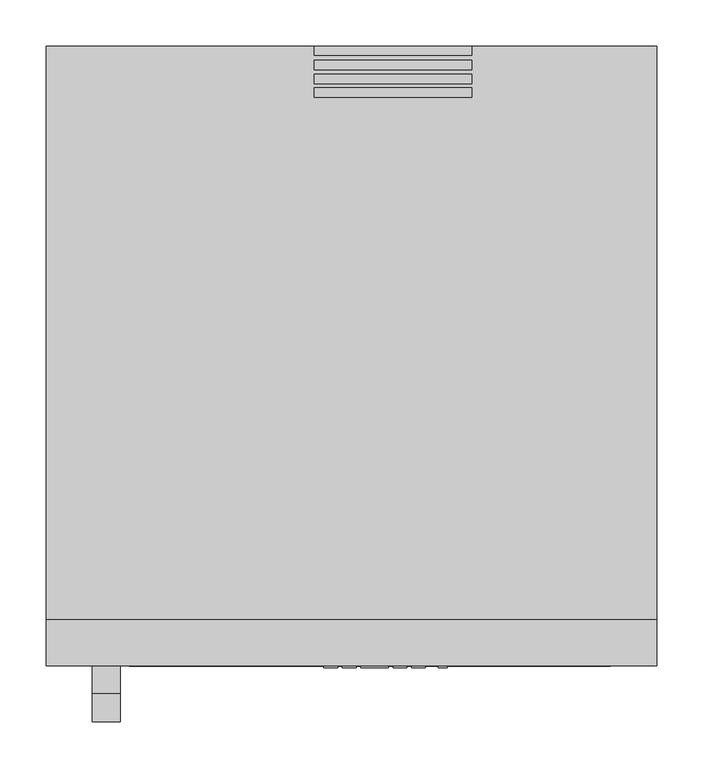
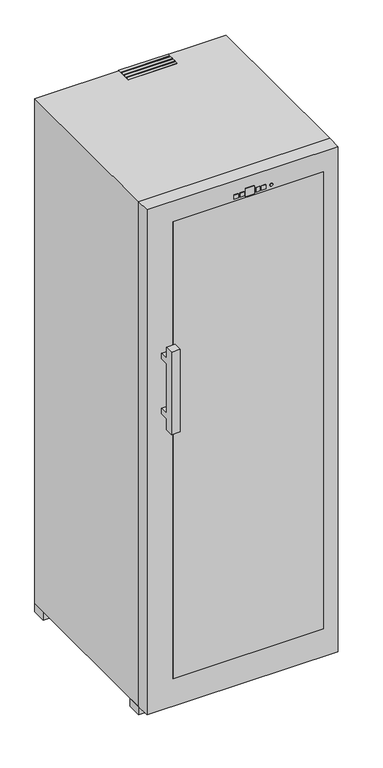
"""IFC4 building model written with IfcOpenShell, lengths in millimetres: proxy geometry, Wkb 4612_049 : WKb 4612."""

from ifc_helpers import new_model, si_unit, point, frame, frame_2d, origin, place, context, project, spatial, polyline, circle_curve, trimmed, segment, composite_curve, outline, extrude, faceted_brep, source, transform, mapped, element, save


def specialty_equipment_0e9e9f57(model_context):
    return source(origin(), model_context, "Body", "SolidModel", [
        extrude(outline(polyline([(-390.0, -79.8345306), (-390.0, -100.1374483), (-390.0, -649.8345306), (-910.0, -649.8345306), (-910.0, -79.8345306), (-390.0, -79.8345306)]), holes=[polyline([(-819.113008, -100.1374483), (-879.1049624, -100.1374483), (-879.1049624, -628.5208352), (-844.113008, -628.5208352), (-819.113008, -628.5208352), (-819.113008, -100.1374483)]), polyline([(-803.4244332, -628.5208352), (-739.113008, -628.5208352), (-739.113008, -100.1374483), (-803.4244332, -100.1374483), (-803.4244332, -628.5208352)]), polyline([(-723.4244332, -628.5208352), (-659.113008, -628.5208352), (-659.113008, -100.1374483), (-723.4244332, -100.1374483), (-723.4244332, -628.5208352)]), polyline([(-643.4244332, -628.5208352), (-574.113008, -628.5208352), (-574.113008, -100.1374483), (-643.4244332, -100.1374483), (-643.4244332, -628.5208352)]), polyline([(-418.4244332, -100.1374483), (-475.9244332, -100.1374483), (-475.9244332, -628.5208352), (-453.635188, -628.5208352), (-418.4244332, -628.5208352), (-418.4244332, -100.1374483)]), polyline([(-558.4244332, -628.5208352), (-491.613008, -628.5208352), (-491.613008, -100.1374483), (-558.4244332, -100.1374483), (-558.4244332, -628.5208352)])]), frame((0.0, 0.0, 870.1353038), z_axis=(0.0, 0.0, 1.0), x_axis=(1.0, 0.0, 0.0)), (0.0, 0.0, 1.0), 14.6283487),
        extrude(outline(polyline([(-390.0, -79.8345306), (-390.0, -100.1374483), (-390.0, -649.8345306), (-910.0, -649.8345306), (-910.0, -79.8345306), (-390.0, -79.8345306)]), holes=[polyline([(-819.113008, -100.1374483), (-879.1049624, -100.1374483), (-879.1049624, -628.5208352), (-844.113008, -628.5208352), (-819.113008, -628.5208352), (-819.113008, -100.1374483)]), polyline([(-803.4244332, -628.5208352), (-739.113008, -628.5208352), (-739.113008, -100.1374483), (-803.4244332, -100.1374483), (-803.4244332, -628.5208352)]), polyline([(-723.4244332, -628.5208352), (-659.113008, -628.5208352), (-659.113008, -100.1374483), (-723.4244332, -100.1374483), (-723.4244332, -628.5208352)]), polyline([(-643.4244332, -628.5208352), (-574.113008, -628.5208352), (-574.113008, -100.1374483), (-643.4244332, -100.1374483), (-643.4244332, -628.5208352)]), polyline([(-418.4244332, -100.1374483), (-475.9244332, -100.1374483), (-475.9244332, -628.5208352), (-453.635188, -628.5208352), (-418.4244332, -628.5208352), (-418.4244332, -100.1374483)]), polyline([(-558.4244332, -628.5208352), (-491.613008, -628.5208352), (-491.613008, -100.1374483), (-558.4244332, -100.1374483), (-558.4244332, -628.5208352)])]), frame((0.0, 0.0, 710.6993462), z_axis=(0.0, 0.0, 1.0), x_axis=(1.0, 0.0, 0.0)), (0.0, 0.0, 1.0), 21.1139055),
        extrude(outline(polyline([(-390.0, -79.8345306), (-390.0, -100.1374483), (-390.0, -649.8345306), (-910.0, -649.8345306), (-910.0, -79.8345306), (-390.0, -79.8345306)]), holes=[polyline([(-819.113008, -100.1374483), (-879.1049624, -100.1374483), (-879.1049624, -628.5208352), (-844.113008, -628.5208352), (-819.113008, -628.5208352), (-819.113008, -100.1374483)]), polyline([(-803.4244332, -628.5208352), (-739.113008, -628.5208352), (-739.113008, -100.1374483), (-803.4244332, -100.1374483), (-803.4244332, -628.5208352)]), polyline([(-723.4244332, -628.5208352), (-659.113008, -628.5208352), (-659.113008, -100.1374483), (-723.4244332, -100.1374483), (-723.4244332, -628.5208352)]), polyline([(-643.4244332, -628.5208352), (-574.113008, -628.5208352), (-574.113008, -100.1374483), (-643.4244332, -100.1374483), (-643.4244332, -628.5208352)]), polyline([(-418.4244332, -100.1374483), (-475.9244332, -100.1374483), (-475.9244332, -628.5208352), (-453.635188, -628.5208352), (-418.4244332, -628.5208352), (-418.4244332, -100.1374483)]), polyline([(-558.4244332, -628.5208352), (-491.613008, -628.5208352), (-491.613008, -100.1374483), (-558.4244332, -100.1374483), (-558.4244332, -628.5208352)])]), frame((0.0, 0.0, 540.1353038), z_axis=(0.0, 0.0, 1.0), x_axis=(1.0, 0.0, 0.0)), (0.0, 0.0, 1.0), 34.7537322),
        extrude(outline(polyline([(-390.0, -79.8345306), (-390.0, -100.1374483), (-390.0, -649.8345306), (-910.0, -649.8345306), (-910.0, -79.8345306), (-390.0, -79.8345306)]), holes=[polyline([(-819.113008, -100.1374483), (-879.1049624, -100.1374483), (-879.1049624, -628.5208352), (-844.113008, -628.5208352), (-819.113008, -628.5208352), (-819.113008, -100.1374483)]), polyline([(-803.4244332, -628.5208352), (-739.113008, -628.5208352), (-739.113008, -100.1374483), (-803.4244332, -100.1374483), (-803.4244332, -628.5208352)]), polyline([(-723.4244332, -628.5208352), (-659.113008, -628.5208352), (-659.113008, -100.1374483), (-723.4244332, -100.1374483), (-723.4244332, -628.5208352)]), polyline([(-643.4244332, -628.5208352), (-574.113008, -628.5208352), (-574.113008, -100.1374483), (-643.4244332, -100.1374483), (-643.4244332, -628.5208352)]), polyline([(-418.4244332, -100.1374483), (-475.9244332, -100.1374483), (-475.9244332, -628.5208352), (-453.635188, -628.5208352), (-418.4244332, -628.5208352), (-418.4244332, -100.1374483)]), polyline([(-558.4244332, -628.5208352), (-491.613008, -628.5208352), (-491.613008, -100.1374483), (-558.4244332, -100.1374483), (-558.4244332, -628.5208352)])]), frame((0.0, 0.0, 255.1353038), z_axis=(0.0, 0.0, 1.0), x_axis=(1.0, 0.0, 0.0)), (0.0, 0.0, 1.0), 34.7537322),
        extrude(outline(polyline([(-390.0, -79.8345306), (-390.0, -100.1374483), (-390.0, -649.8345306), (-910.0, -649.8345306), (-910.0, -79.8345306), (-390.0, -79.8345306)]), holes=[polyline([(-819.113008, -100.1374483), (-879.1049624, -100.1374483), (-879.1049624, -628.5208352), (-844.113008, -628.5208352), (-819.113008, -628.5208352), (-819.113008, -100.1374483)]), polyline([(-803.4244332, -628.5208352), (-739.113008, -628.5208352), (-739.113008, -100.1374483), (-803.4244332, -100.1374483), (-803.4244332, -628.5208352)]), polyline([(-723.4244332, -628.5208352), (-659.113008, -628.5208352), (-659.113008, -100.1374483), (-723.4244332, -100.1374483), (-723.4244332, -628.5208352)]), polyline([(-643.4244332, -628.5208352), (-574.113008, -628.5208352), (-574.113008, -100.1374483), (-643.4244332, -100.1374483), (-643.4244332, -628.5208352)]), polyline([(-418.4244332, -100.1374483), (-475.9244332, -100.1374483), (-475.9244332, -628.5208352), (-453.635188, -628.5208352), (-418.4244332, -628.5208352), (-418.4244332, -100.1374483)]), polyline([(-558.4244332, -628.5208352), (-491.613008, -628.5208352), (-491.613008, -100.1374483), (-558.4244332, -100.1374483), (-558.4244332, -628.5208352)])]), frame((0.0, 0.0, -14.8646962), z_axis=(0.0, 0.0, 1.0), x_axis=(1.0, 0.0, 0.0)), (0.0, 0.0, 1.0), 26.4267548),
        extrude(outline(polyline([(-390.0, -79.8345306), (-390.0, -100.1374483), (-390.0, -649.8345306), (-910.0, -649.8345306), (-910.0, -79.8345306), (-390.0, -79.8345306)]), holes=[polyline([(-819.113008, -100.1374483), (-879.1049624, -100.1374483), (-879.1049624, -628.5208352), (-844.113008, -628.5208352), (-819.113008, -628.5208352), (-819.113008, -100.1374483)]), polyline([(-803.4244332, -628.5208352), (-739.113008, -628.5208352), (-739.113008, -100.1374483), (-803.4244332, -100.1374483), (-803.4244332, -628.5208352)]), polyline([(-723.4244332, -628.5208352), (-659.113008, -628.5208352), (-659.113008, -100.1374483), (-723.4244332, -100.1374483), (-723.4244332, -628.5208352)]), polyline([(-643.4244332, -628.5208352), (-574.113008, -628.5208352), (-574.113008, -100.1374483), (-643.4244332, -100.1374483), (-643.4244332, -628.5208352)]), polyline([(-418.4244332, -100.1374483), (-475.9244332, -100.1374483), (-475.9244332, -628.5208352), (-453.635188, -628.5208352), (-418.4244332, -628.5208352), (-418.4244332, -100.1374483)]), polyline([(-558.4244332, -628.5208352), (-491.613008, -628.5208352), (-491.613008, -100.1374483), (-558.4244332, -100.1374483), (-558.4244332, -628.5208352)])]), frame((0.0, 0.0, -274.8646962), z_axis=(0.0, 0.0, 1.0), x_axis=(1.0, 0.0, 0.0)), (0.0, 0.0, 1.0), 28.5542219),
        extrude(outline(polyline([(-390.0, -79.8345306), (-390.0, -100.1374483), (-390.0, -649.8249483), (-910.0, -649.8249483), (-910.0, -79.8345306), (-390.0, -79.8345306)]), holes=[polyline([(-819.113008, -100.1374483), (-879.1049624, -100.1374483), (-879.1049624, -628.5208352), (-844.113008, -628.5208352), (-819.113008, -628.5208352), (-819.113008, -100.1374483)]), polyline([(-803.4244332, -628.5208352), (-739.113008, -628.5208352), (-739.113008, -100.1374483), (-803.4244332, -100.1374483), (-803.4244332, -628.5208352)]), polyline([(-723.4244332, -628.5208352), (-659.113008, -628.5208352), (-659.113008, -100.1374483), (-723.4244332, -100.1374483), (-723.4244332, -628.5208352)]), polyline([(-643.4244332, -628.5208352), (-574.113008, -628.5208352), (-574.113008, -100.1374483), (-643.4244332, -100.1374483), (-643.4244332, -628.5208352)]), polyline([(-418.4244332, -100.1374483), (-475.9244332, -100.1374483), (-475.9244332, -628.5208352), (-453.635188, -628.5208352), (-418.4244332, -628.5208352), (-418.4244332, -100.1374483)]), polyline([(-558.4244332, -628.5208352), (-491.613008, -628.5208352), (-491.613008, -100.1374483), (-558.4244332, -100.1374483), (-558.4244332, -628.5208352)])]), frame((0.0, 0.0, -524.1867483), z_axis=(0.0, 0.0, 1.0), x_axis=(1.0, 0.0, 0.0)), (0.0, 0.0, 1.0), 21.9717658),
        extrude(outline(polyline([(-540.0, -29.8345306), (-540.0, -39.8345306), (-710.0, -39.8345306), (-710.0, -29.8345306), (-540.0, -29.8345306)])), frame((0.0, 0.0, 1216.8132517), z_axis=(0.0, 0.0, 1.0), x_axis=(1.0, 0.0, 0.0)), (0.0, 0.0, 1.0), 1.0318985),
        extrude(outline(polyline([(-540.0, -45.1511593), (-540.0, -55.1511593), (-710.0, -55.1511593), (-710.0, -45.1511593), (-540.0, -45.1511593)])), frame((0.0, 0.0, 1216.8132517), z_axis=(0.0, 0.0, 1.0), x_axis=(1.0, 0.0, 0.0)), (0.0, 0.0, 1.0), 1.0318985),
        extrude(outline(polyline([(-540.0, -60.1400497), (-540.0, -70.1400497), (-710.0, -70.1400497), (-710.0, -60.1400497), (-540.0, -60.1400497)])), frame((0.0, 0.0, 1216.8132517), z_axis=(0.0, 0.0, 1.0), x_axis=(1.0, 0.0, 0.0)), (0.0, 0.0, 1.0), 1.0318985),
        extrude(outline(polyline([(-540.0, -74.8345306), (-540.0, -84.8345306), (-710.0, -84.8345306), (-710.0, -74.8345306), (-540.0, -74.8345306)])), frame((0.0, 0.0, 1216.8132517), z_axis=(0.0, 0.0, 1.0), x_axis=(1.0, 0.0, 0.0)), (0.0, 0.0, 1.0), 1.0318985),
        extrude(outline(polyline([(-630.0, -701.7817027), (-660.0, -701.7817027), (-660.0, -699.8345306), (-630.0, -699.8345306), (-630.0, -701.7817027)])), frame((0.0, 0.0, 1146.8132517), z_axis=(0.0, 0.0, 1.0), x_axis=(1.0, 0.0, 0.0)), (0.0, 0.0, 1.0), 30.0),
        extrude(outline(polyline([(-665.0, -701.7817027), (-680.0, -701.7817027), (-680.0, -699.8345306), (-665.0, -699.8345306), (-665.0, -701.7817027)])), frame((0.0, 0.0, 1152.245761), z_axis=(0.0, 0.0, 1.0), x_axis=(1.0, 0.0, 0.0)), (0.0, 0.0, 1.0), 15.0),
        extrude(outline(polyline([(-685.0, -701.7817027), (-700.0, -701.7817027), (-700.0, -699.8345306), (-685.0, -699.8345306), (-685.0, -701.7817027)])), frame((0.0, 0.0, 1152.245761), z_axis=(0.0, 0.0, 1.0), x_axis=(1.0, 0.0, 0.0)), (0.0, 0.0, 1.0), 15.0),
        extrude(outline(polyline([(-610.0, -701.7817027), (-625.0, -701.7817027), (-625.0, -699.8345306), (-610.0, -699.8345306), (-610.0, -701.7817027)])), frame((0.0, 0.0, 1152.245761), z_axis=(0.0, 0.0, 1.0), x_axis=(1.0, 0.0, 0.0)), (0.0, 0.0, 1.0), 15.0),
        extrude(outline(polyline([(-590.0, -701.7817027), (-605.0, -701.7817027), (-605.0, -699.8345306), (-590.0, -699.8345306), (-590.0, -701.7817027)])), frame((0.0, 0.0, 1152.245761), z_axis=(0.0, 0.0, 1.0), x_axis=(1.0, 0.0, 0.0)), (0.0, 0.0, 1.0), 15.0),
        extrude(outline(composite_curve([segment(trimmed(circle_curve(frame_2d((1159.745761, -571.25)), 5.0), [point((1159.745761, -576.25))], [point((1159.745761, -566.25))], False, "CARTESIAN"), True, "CONTINUOUS"), segment(trimmed(circle_curve(frame_2d((1159.745761, -571.25)), 5.0), [point((1159.745761, -566.25))], [point((1159.745761, -576.25))], False, "CARTESIAN"), True, "CONTINUOUS")], self_intersect=False)), frame((0.0, -701.7817027, 0.0), z_axis=(0.0, 1.0, 0.0), x_axis=(0.0, 0.0, 1.0)), (0.0, 0.0, 1.0), 1.947172),
        extrude(outline(polyline([(-390.0, -699.8345306), (-910.0, -699.8345306), (-910.0, -649.8345306), (-390.0, -649.8345306), (-390.0, -699.8345306)])), frame((0.0, 0.0, -524.1867483), z_axis=(0.0, 0.0, 1.0), x_axis=(1.0, 0.0, 0.0)), (0.0, 0.0, 1.0), 1666.0),
        extrude(outline(polyline([(1216.8132517, -340.0), (1216.8132517, -1000.0), (-624.1867483, -1000.0), (-624.1867483, -340.0), (1216.8132517, -340.0)]), holes=[polyline([(1141.8132517, -910.0), (1141.8132517, -390.0), (-524.1867483, -390.0), (-524.1867483, -910.0), (1141.8132517, -910.0)])]), frame((0.0, -699.8345306, 0.0), z_axis=(0.0, 1.0, 0.0), x_axis=(0.0, 0.0, 1.0)), (0.0, 0.0, 1.0), 50.0),
        faceted_brep([(-340.0, -649.8345306, 1216.8132517), (-1000.0, -649.8345306, 1216.8132517), (-1000.0, -649.8345306, -624.1867483), (-340.0, -649.8345306, -624.1867483), (-910.0, -649.8345306, 1141.8132517), (-390.0, -649.8345306, 1141.8132517), (-390.0, -649.8345306, -524.1867483), (-910.0, -649.8345306, -524.1867483), (-340.0, -29.8345306, 1216.8132517), (-340.0, -29.8345306, -624.1867483), (-1000.0, -29.8345306, -624.1867483), (-1000.0, -29.8345306, 1216.8132517), (-390.0, -79.8345306, 1141.8132517), (-910.0, -79.8345306, 1141.8132517), (-910.0, -79.8345306, -524.1867483), (-390.0, -79.8345306, -524.1867483)], [[[0, 1, 2, 3], [4, 5, 6, 7]], [[8, 9, 10, 11]], [[1, 0, 8, 11]], [[2, 1, 11, 10]], [[3, 2, 10, 9]], [[0, 3, 9, 8]], [[12, 13, 14, 15]], [[13, 12, 5, 4]], [[14, 13, 4, 7]], [[15, 14, 7, 6]], [[12, 15, 6, 5]]]),
        extrude(outline(polyline([(-340.0, -599.8345306), (-340.0, -649.8345306), (-390.0, -649.8345306), (-390.0, -599.8345306), (-340.0, -599.8345306)])), frame((0.0, 0.0, -654.1867483), z_axis=(0.0, 0.0, 1.0), x_axis=(1.0, 0.0, 0.0)), (0.0, 0.0, 1.0), 30.0),
        extrude(outline(polyline([(-340.0, -29.8345306), (-340.0, -79.8345306), (-390.0, -79.8345306), (-390.0, -29.8345306), (-340.0, -29.8345306)])), frame((0.0, 0.0, -654.1867483), z_axis=(0.0, 0.0, 1.0), x_axis=(1.0, 0.0, 0.0)), (0.0, 0.0, 1.0), 30.0),
        extrude(outline(polyline([(-950.0, -29.8345306), (-950.0, -79.8345306), (-1000.0, -79.8345306), (-1000.0, -29.8345306), (-950.0, -29.8345306)])), frame((0.0, 0.0, -654.1867483), z_axis=(0.0, 0.0, 1.0), x_axis=(1.0, 0.0, 0.0)), (0.0, 0.0, 1.0), 30.0),
        extrude(outline(polyline([(-950.0, -599.8345306), (-950.0, -649.8345306), (-1000.0, -649.8345306), (-1000.0, -599.8345306), (-950.0, -599.8345306)])), frame((0.0, 0.0, -654.1867483), z_axis=(0.0, 0.0, 1.0), x_axis=(1.0, 0.0, 0.0)), (0.0, 0.0, 1.0), 30.0),
        extrude(outline(polyline([(-729.8345306, 676.8132517), (-699.8345306, 676.8132517), (-699.8345306, 656.8132517), (-729.8345306, 656.8132517), (-729.8345306, 476.8132517), (-699.8345306, 476.8132517), (-699.8345306, 456.8132517), (-729.8345306, 456.8132517), (-729.8345306, 416.8132517), (-759.8345306, 416.8132517), (-759.8345306, 716.8132517), (-729.8345306, 716.8132517), (-729.8345306, 676.8132517)])), frame((-950.0, 0.0, 0.0), z_axis=(1.0, 0.0, 0.0), x_axis=(0.0, 1.0, 0.0)), (0.0, 0.0, 1.0), 30.0),
    ])


if __name__ == "__main__":
    model = new_model("IFC4")
    model_context = context("Model", 3, world=origin())
    ifc_project = project(units=[si_unit("LENGTHUNIT", "METRE", prefix="MILLI")], contexts=[model_context])
    site = spatial("IfcSite", under=ifc_project)
    building = spatial("IfcBuilding", under=site)
    placement = place(None, origin())
    specialty_equipment_shape = specialty_equipment_0e9e9f57(model_context)
    element("IfcBuildingElementProxy", 1, Name="Wkb 4612_049 : WKb 4612", ObjectType="Wkb 4612_049 : WKb 4612", at=placement, inside=building, context=model_context, shape_type="MappedRepresentation", body=[
        mapped(specialty_equipment_shape, transform((0.0, 0.0, 0.0), x_axis=(1.0, 0.0, 0.0), y_axis=(0.0, 1.0, 0.0), z_axis=(0.0, 0.0, 1.0))),
    ])
    save(model, "model.ifc")
